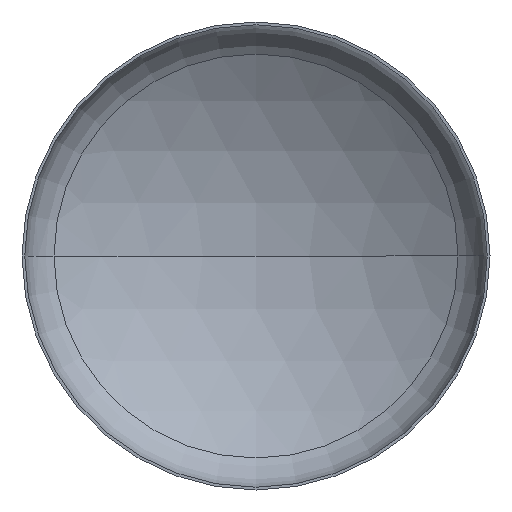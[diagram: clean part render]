
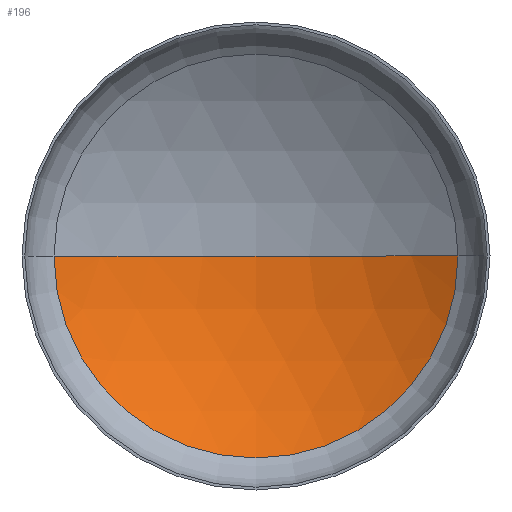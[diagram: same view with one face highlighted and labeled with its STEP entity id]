
A CAD part, front view. The second image highlights one B-rep face of the part: STEP entity #196.
In plain terms, the highlighted spherical face has radius 400.4 mm.
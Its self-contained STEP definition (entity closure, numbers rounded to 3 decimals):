
#2 = CARTESIAN_POINT ( 'NONE',  ( 0., -273.4, 0. ) ) ;
#37 = DIRECTION ( 'NONE',  ( -1., 0., 0. ) ) ;
#43 = CARTESIAN_POINT ( 'NONE',  ( -219.238, 61.645, 0. ) ) ;
#47 = ORIENTED_EDGE ( 'NONE', *, *, #208, .F. ) ;
#65 = CIRCLE ( 'NONE', #398, 400.4 ) ;
#76 = CARTESIAN_POINT ( 'NONE',  ( 219.238, 61.645, 0. ) ) ;
#82 = VERTEX_POINT ( 'NONE', #43 ) ;
#128 = DIRECTION ( 'NONE',  ( 0., 0., 1. ) ) ;
#132 = ORIENTED_EDGE ( 'NONE', *, *, #290, .F. ) ;
#159 = CARTESIAN_POINT ( 'NONE',  ( 0., -273.4, 0. ) ) ;
#174 = AXIS2_PLACEMENT_3D ( 'NONE', #159, #324, #37 ) ;
#194 = CARTESIAN_POINT ( 'NONE',  ( 0., -273.4, 0. ) ) ;
#195 = AXIS2_PLACEMENT_3D ( 'NONE', #343, #292, #347 ) ;
#196 = ADVANCED_FACE ( 'NONE', ( #384 ), #201, .F. ) ;
#197 = DIRECTION ( 'NONE',  ( 0., 0., -1. ) ) ;
#201 = SPHERICAL_SURFACE ( 'NONE', #174, 400.4 ) ;
#208 = EDGE_CURVE ( 'NONE', #385, #82, #267, .T. ) ;
#239 = CARTESIAN_POINT ( 'NONE',  ( 0., 127., 0. ) ) ;
#255 = DIRECTION ( 'NONE',  ( 1., 0., 0. ) ) ;
#267 = CIRCLE ( 'NONE', #195, 219.238 ) ;
#284 = DIRECTION ( 'NONE',  ( -1., 0., 0. ) ) ;
#290 = EDGE_CURVE ( 'NONE', #82, #323, #403, .T. ) ;
#292 = DIRECTION ( 'NONE',  ( 0., 1., 0. ) ) ;
#297 = EDGE_CURVE ( 'NONE', #385, #323, #65, .T. ) ;
#323 = VERTEX_POINT ( 'NONE', #239 ) ;
#324 = DIRECTION ( 'NONE',  ( 0., 0., 1. ) ) ;
#337 = AXIS2_PLACEMENT_3D ( 'NONE', #194, #197, #284 ) ;
#343 = CARTESIAN_POINT ( 'NONE',  ( 0., 61.645, 0. ) ) ;
#347 = DIRECTION ( 'NONE',  ( -1., 0., 0. ) ) ;
#384 = FACE_OUTER_BOUND ( 'NONE', #391, .T. ) ;
#385 = VERTEX_POINT ( 'NONE', #76 ) ;
#387 = ORIENTED_EDGE ( 'NONE', *, *, #297, .T. ) ;
#391 = EDGE_LOOP ( 'NONE', ( #47, #387, #132 ) ) ;
#398 = AXIS2_PLACEMENT_3D ( 'NONE', #2, #128, #255 ) ;
#403 = CIRCLE ( 'NONE', #337, 400.4 ) ;
